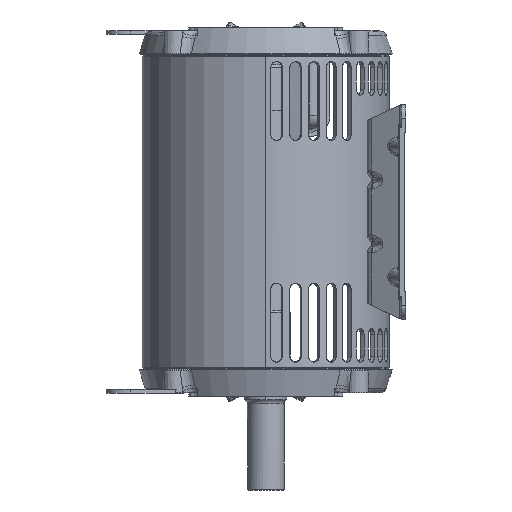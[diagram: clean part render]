
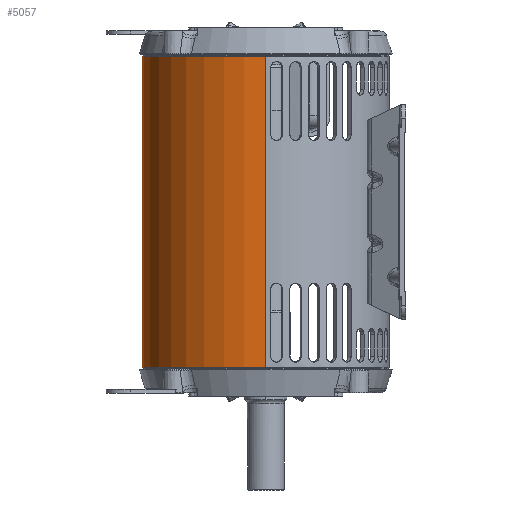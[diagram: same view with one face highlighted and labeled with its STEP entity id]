
A CAD part, left-side view. The second image highlights one B-rep face of the part: STEP entity #5057.
In plain terms, the highlighted cylindrical face has radius 116.967 mm (diameter 233.934 mm), a partial arc.
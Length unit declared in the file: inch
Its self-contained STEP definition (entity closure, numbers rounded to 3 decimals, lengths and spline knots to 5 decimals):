
#1447=DIRECTION('',(0.,0.,1.));
#1448=VECTOR('',#1447,9.669);
#1449=CARTESIAN_POINT('',(-4.605,0.,-3.858));
#1450=LINE('',#1449,#1448);
#1461=DIRECTION('',(0.,0.,1.));
#1462=VECTOR('',#1461,0.333);
#1463=CARTESIAN_POINT('',(-4.605,0.,-5.811));
#1464=LINE('',#1463,#1462);
#2803=CARTESIAN_POINT('',(-4.54677,0.73,-4.0475));
#2804=CARTESIAN_POINT('',(-4.54466,0.74313,-4.0475));
#2805=CARTESIAN_POINT('',(-4.5406,0.76774,
-4.04309));
#2806=CARTESIAN_POINT('',(-4.53469,0.80183,
-4.0237));
#2807=CARTESIAN_POINT('',(-4.53018,0.82679,
-3.99379));
#2808=CARTESIAN_POINT('',(-4.52775,0.83996,
-3.95769));
#2809=CARTESIAN_POINT('',(-4.52772,0.84012,
-3.91896));
#2810=CARTESIAN_POINT('',(-4.53015,0.82698,
-3.88259));
#2811=CARTESIAN_POINT('',(-4.53458,0.80248,
-3.85285));
#2812=CARTESIAN_POINT('',(-4.54055,0.76806,
-3.83296));
#2813=CARTESIAN_POINT('',(-4.54464,0.74326,-3.8285));
#2814=CARTESIAN_POINT('',(-4.54677,0.73,-3.8285));
#2816=CARTESIAN_POINT('',(-4.54677,0.73,-3.8285));
#2817=CARTESIAN_POINT('',(-4.54888,0.71689,-3.8285));
#2818=CARTESIAN_POINT('',(-4.55271,0.69231,
-3.8329));
#2819=CARTESIAN_POINT('',(-4.55774,0.65828,
-3.85222));
#2820=CARTESIAN_POINT('',(-4.56126,0.63327,
-3.88209));
#2821=CARTESIAN_POINT('',(-4.56307,0.62003,
-3.91825));
#2822=CARTESIAN_POINT('',(-4.56309,0.61988,
-3.9571));
#2823=CARTESIAN_POINT('',(-4.56129,0.63309,
-3.99355));
#2824=CARTESIAN_POINT('',(-4.55783,0.65765,
-4.02325));
#2825=CARTESIAN_POINT('',(-4.55276,0.69201,
-4.04306));
#2826=CARTESIAN_POINT('',(-4.54889,0.71677,-4.0475));
#2827=CARTESIAN_POINT('',(-4.54677,0.73,-4.0475));
#2829=CARTESIAN_POINT('',(-4.54385,0.74797,
-4.35713));
#2830=CARTESIAN_POINT('',(-4.54429,0.74526,
-4.35062));
#2831=CARTESIAN_POINT('',(-4.54534,0.73889,
-4.33823));
#2832=CARTESIAN_POINT('',(-4.54735,0.72642,
-4.32132));
#2833=CARTESIAN_POINT('',(-4.54972,0.71147,
-4.30669));
#2834=CARTESIAN_POINT('',(-4.55235,0.69441,
-4.29466));
#2835=CARTESIAN_POINT('',(-4.55518,0.67564,
-4.2855));
#2836=CARTESIAN_POINT('',(-4.55711,0.6624,
-4.28148));
#2837=CARTESIAN_POINT('',(-4.5581,0.65557,
-4.27999));
#2839=CARTESIAN_POINT('',(-4.605,0.,-5.478));
#2840=CARTESIAN_POINT('',(-4.605,0.02792,-5.478));
#2841=CARTESIAN_POINT('',(-4.6045,0.08356,
-5.47514));
#2842=CARTESIAN_POINT('',(-4.60221,0.16719,
-5.46206));
#2843=CARTESIAN_POINT('',(-4.59851,0.24864,
-5.44041));
#2844=CARTESIAN_POINT('',(-4.59362,0.32646,
-5.41083));
#2845=CARTESIAN_POINT('',(-4.58774,0.40058,
-5.37369));
#2846=CARTESIAN_POINT('',(-4.58073,0.47413,
-5.32681));
#2847=CARTESIAN_POINT('',(-4.57248,0.548,
-5.26723));
#2848=CARTESIAN_POINT('',(-4.56302,0.62185,
-5.19118));
#2849=CARTESIAN_POINT('',(-4.55261,0.69382,
-5.09252));
#2850=CARTESIAN_POINT('',(-4.54268,0.75572,
-4.97132));
#2851=CARTESIAN_POINT('',(-4.53501,0.79998,
-4.82448));
#2852=CARTESIAN_POINT('',(-4.5322,0.81556,
-4.66368));
#2853=CARTESIAN_POINT('',(-4.53542,0.79771,
-4.5003));
#2854=CARTESIAN_POINT('',(-4.54066,0.76736,
-4.40378));
#2855=CARTESIAN_POINT('',(-4.54385,0.74797,
-4.35713));
#2857=CARTESIAN_POINT('',(0.,0.,-5.811));
#2858=DIRECTION('',(0.,0.,-1.));
#2859=DIRECTION('',(-1.,0.,0.));
#2860=AXIS2_PLACEMENT_3D('',#2857,#2858,#2859);
#2862=DIRECTION('',(0.,0.,1.));
#2863=VECTOR('',#2862,11.622);
#2864=CARTESIAN_POINT('',(4.605,0.,-5.811));
#2865=LINE('',#2864,#2863);
#2866=CARTESIAN_POINT('',(0.,0.,5.811));
#2867=DIRECTION('',(0.,0.,1.));
#2868=DIRECTION('',(1.,0.,0.));
#2869=AXIS2_PLACEMENT_3D('',#2866,#2867,#2868);
#2871=CARTESIAN_POINT('',(-4.59449,0.31087,
-3.92003));
#2872=CARTESIAN_POINT('',(-4.59673,0.27789,
-3.90632));
#2873=CARTESIAN_POINT('',(-4.60056,0.21084,
-3.8835));
#2874=CARTESIAN_POINT('',(-4.60419,0.10588,
-3.8626));
#2875=CARTESIAN_POINT('',(-4.605,0.03549,-3.858));
#2876=CARTESIAN_POINT('',(-4.605,0.,-3.858));
#2878=CARTESIAN_POINT('',(-4.58862,0.38801,
-4.01243));
#2879=CARTESIAN_POINT('',(-4.58875,0.38651,
-4.00557));
#2880=CARTESIAN_POINT('',(-4.58909,0.38247,
-3.99228));
#2881=CARTESIAN_POINT('',(-4.58985,0.37326,
-3.97344));
#2882=CARTESIAN_POINT('',(-4.59082,0.36117,
-3.95637));
#2883=CARTESIAN_POINT('',(-4.59195,0.34653,
-3.94145));
#2884=CARTESIAN_POINT('',(-4.5932,0.32966,
-3.92905));
#2885=CARTESIAN_POINT('',(-4.59406,0.31734,
-3.92272));
#2886=CARTESIAN_POINT('',(-4.59449,0.31087,
-3.92003));
#2888=CARTESIAN_POINT('',(-4.5581,0.65557,
-4.27999));
#2889=CARTESIAN_POINT('',(-4.56079,0.63686,
-4.27592));
#2890=CARTESIAN_POINT('',(-4.56577,0.60062,
-4.26487));
#2891=CARTESIAN_POINT('',(-4.57223,0.54914,
-4.23947));
#2892=CARTESIAN_POINT('',(-4.57756,0.50258,
-4.20609));
#2893=CARTESIAN_POINT('',(-4.58181,0.46203,
-4.16556));
#2894=CARTESIAN_POINT('',(-4.58504,0.42862,
-4.11902));
#2895=CARTESIAN_POINT('',(-4.58733,0.40317,
-4.06748));
#2896=CARTESIAN_POINT('',(-4.58828,0.39209,
-4.03119));
#2897=CARTESIAN_POINT('',(-4.58862,0.38801,
-4.01243));
#3717=CARTESIAN_POINT('',(-4.605,0.,-5.811));
#3718=CARTESIAN_POINT('',(4.605,0.,-5.811));
#3719=VERTEX_POINT('',#3717);
#3720=VERTEX_POINT('',#3718);
#3721=CARTESIAN_POINT('',(4.605,0.,5.811));
#3722=VERTEX_POINT('',#3721);
#3747=CARTESIAN_POINT('',(-4.605,0.,5.811));
#3748=VERTEX_POINT('',#3747);
#3749=VERTEX_POINT('',#2803);
#3750=VERTEX_POINT('',#2814);
#3751=VERTEX_POINT('',#2829);
#3752=VERTEX_POINT('',#2837);
#3753=VERTEX_POINT('',#2897);
#3754=VERTEX_POINT('',#2886);
#3755=VERTEX_POINT('',#2876);
#3756=VERTEX_POINT('',#2839);
#5028=CARTESIAN_POINT('',(0.,0.,-6.015));
#5029=DIRECTION('',(0.,0.,1.));
#5030=DIRECTION('',(1.,0.,0.));
#5031=AXIS2_PLACEMENT_3D('',#5028,#5029,#5030);
#5032=CYLINDRICAL_SURFACE('',#5031,4.605);
#5034=ORIENTED_EDGE('',*,*,#5033,.F.);
#5036=ORIENTED_EDGE('',*,*,#5035,.F.);
#5037=ORIENTED_EDGE('',*,*,#4640,.F.);
#5039=ORIENTED_EDGE('',*,*,#5038,.T.);
#5040=ORIENTED_EDGE('',*,*,#4636,.T.);
#5042=ORIENTED_EDGE('',*,*,#5041,.T.);
#5043=ORIENTED_EDGE('',*,*,#4632,.F.);
#5044=ORIENTED_EDGE('',*,*,#5015,.F.);
#5046=ORIENTED_EDGE('',*,*,#5045,.F.);
#5048=ORIENTED_EDGE('',*,*,#5047,.F.);
#5049=EDGE_LOOP('',(#5034,#5036,#5037,#5039,#5040,#5042,#5043,#5044,#5046,
#5048));
#5050=FACE_OUTER_BOUND('',#5049,.F.);
#5052=ORIENTED_EDGE('',*,*,#5051,.F.);
#5054=ORIENTED_EDGE('',*,*,#5053,.F.);
#5055=EDGE_LOOP('',(#5052,#5054));
#5056=FACE_BOUND('',#5055,.F.);
#5057=ADVANCED_FACE('',(#5050,#5056),#5032,.T.);
#2815=B_SPLINE_CURVE_WITH_KNOTS('',3,(#2803,#2804,#2805,#2806,#2807,#2808,#2809,
#2810,#2811,#2812,#2813,#2814),.UNSPECIFIED.,.F.,.F.,(4,1,1,1,1,1,1,1,1,4),
(0.,0.11111,0.22222,0.33333,0.44444,
0.55556,0.66667,0.77778,0.88889,1.),
.UNSPECIFIED.);
#2828=B_SPLINE_CURVE_WITH_KNOTS('',3,(#2816,#2817,#2818,#2819,#2820,#2821,#2822,
#2823,#2824,#2825,#2826,#2827),.UNSPECIFIED.,.F.,.F.,(4,1,1,1,1,1,1,1,1,4),
(0.,0.11111,0.22222,0.33333,0.44444,
0.55556,0.66667,0.77778,0.88889,1.),
.UNSPECIFIED.);
#2838=B_SPLINE_CURVE_WITH_KNOTS('',3,(#2829,#2830,#2831,#2832,#2833,#2834,#2835,
#2836,#2837),.UNSPECIFIED.,.F.,.F.,(4,1,1,1,1,1,4),(0.,0.16667,
0.33333,0.5,0.66667,0.83333,1.),
.UNSPECIFIED.);
#2856=B_SPLINE_CURVE_WITH_KNOTS('',3,(#2839,#2840,#2841,#2842,#2843,#2844,#2845,
#2846,#2847,#2848,#2849,#2850,#2851,#2852,#2853,#2854,#2855),.UNSPECIFIED.,.F.,
.F.,(4,1,1,1,1,1,1,1,1,1,1,1,1,1,4),(0.,0.07143,0.14286,
0.21429,0.28571,0.35714,0.42857,0.5,
0.57143,0.64286,0.71429,0.78571,
0.85714,0.92857,1.),.UNSPECIFIED.);
#2861=CIRCLE('',#2860,4.605);
#2870=CIRCLE('',#2869,4.605);
#2877=B_SPLINE_CURVE_WITH_KNOTS('',3,(#2871,#2872,#2873,#2874,#2875,#2876),
.UNSPECIFIED.,.F.,.F.,(4,1,1,4),(0.,0.33333,0.66667,1.),
.UNSPECIFIED.);
#2887=B_SPLINE_CURVE_WITH_KNOTS('',3,(#2878,#2879,#2880,#2881,#2882,#2883,#2884,
#2885,#2886),.UNSPECIFIED.,.F.,.F.,(4,1,1,1,1,1,4),(0.,0.16667,
0.33333,0.5,0.66667,0.83333,1.),
.UNSPECIFIED.);
#2898=B_SPLINE_CURVE_WITH_KNOTS('',3,(#2888,#2889,#2890,#2891,#2892,#2893,#2894,
#2895,#2896,#2897),.UNSPECIFIED.,.F.,.F.,(4,1,1,1,1,1,1,4),(0.,
0.14286,0.28571,0.42857,0.57143,
0.71429,0.85714,1.),.UNSPECIFIED.);
#4632=EDGE_CURVE('',#3755,#3748,#1450,.T.);
#4636=EDGE_CURVE('',#3720,#3722,#2865,.T.);
#4640=EDGE_CURVE('',#3719,#3756,#1464,.T.);
#5015=EDGE_CURVE('',#3754,#3755,#2877,.T.);
#5033=EDGE_CURVE('',#3751,#3752,#2838,.T.);
#5035=EDGE_CURVE('',#3756,#3751,#2856,.T.);
#5038=EDGE_CURVE('',#3719,#3720,#2861,.T.);
#5041=EDGE_CURVE('',#3722,#3748,#2870,.T.);
#5045=EDGE_CURVE('',#3753,#3754,#2887,.T.);
#5047=EDGE_CURVE('',#3752,#3753,#2898,.T.);
#5051=EDGE_CURVE('',#3749,#3750,#2815,.T.);
#5053=EDGE_CURVE('',#3750,#3749,#2828,.T.);
